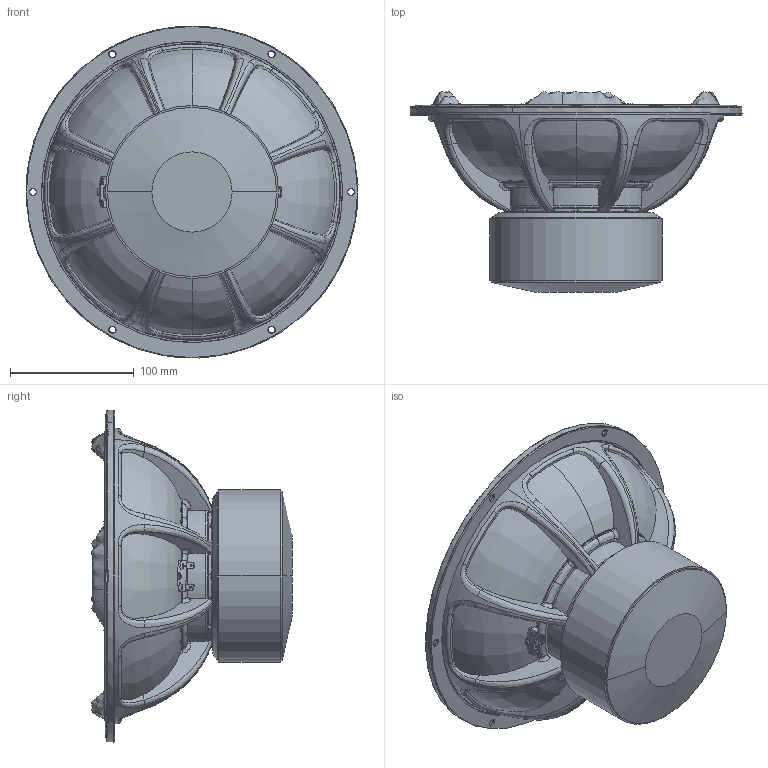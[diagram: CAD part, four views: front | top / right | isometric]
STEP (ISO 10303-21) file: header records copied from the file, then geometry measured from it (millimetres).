
FILE_DESCRIPTION (( 'STEP AP203' ), '1' );
FILE_NAME ('DU87-012-01 10in active alu inverted.STEP', '2023-08-28T08:33:54', ( '' ), ( '' ), 'SwSTEP 2.0', 'SolidWorks 2022', '' );
FILE_SCHEMA (( 'CONFIG_CONTROL_DESIGN' ));
Length unit declared in the file: millimetre
Products named in the file (1): DU87-012-01 10in active alu inverted
Bounding box: 268.74 x 162.25 x 268.74 mm (x, y, z)
Volume: 3060104.5 mm3; surface area: 216474.8 mm2
Topology: 1 solids, 9 shells, 1068 faces, 2686 edges, 1622 vertices
Faces by surface type: bspline 416, plane 186, torus 171, cylinder 158, cone 91, sphere 46
Entity records: 358917 total; most frequent: CARTESIAN_POINT 337143, ORIENTED_EDGE 5326, DIRECTION 3558, EDGE_CURVE 2663, VERTEX_POINT 1621, AXIS2_PLACEMENT_3D 1584, B_SPLINE_CURVE_WITH_KNOTS 1230, EDGE_LOOP 1112
